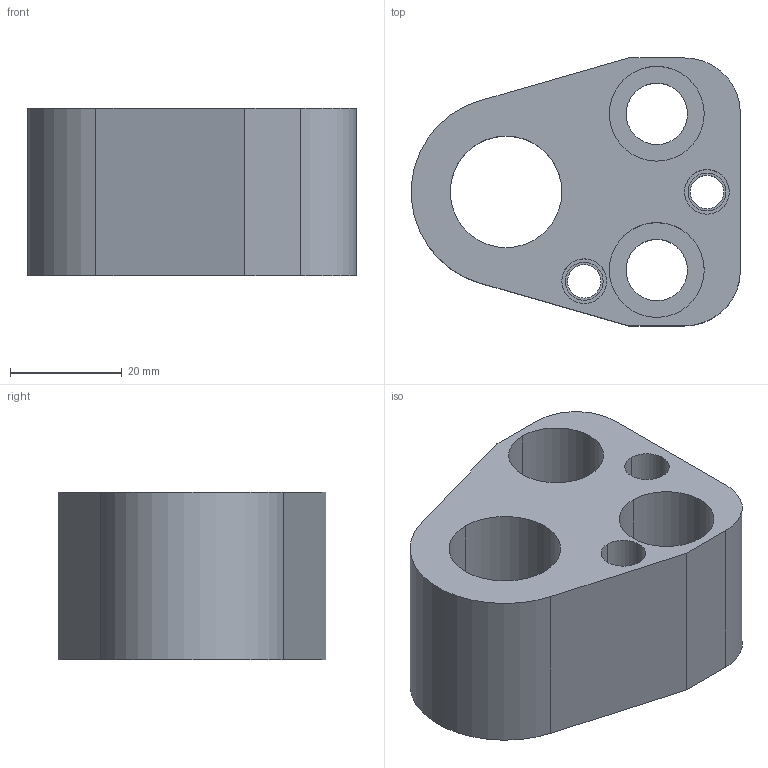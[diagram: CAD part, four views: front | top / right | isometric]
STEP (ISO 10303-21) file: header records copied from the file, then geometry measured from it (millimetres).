
FILE_DESCRIPTION(/* description */ (''),/* implementation_level */ '2;1');
FILE_NAME(/* name */ '3d_hdp-an20_04031_r00.stp',/* time_stamp */ '2011-01-10T14:14:54+09:00',/* author */ ('MISUMI'),/* organization */ (''),/* preprocessor_version */ 'ST-DEVELOPER v11',/* originating_system */ 'UGS - NX 5.0',/* authorisation */ '');
FILE_SCHEMA (('CONFIG_CONTROL_DESIGN'));
Length unit declared in the file: millimetre
Products named in the file (1): 3d_hdp-an20_04031_r00
Bounding box: 58.94 x 48 x 30 mm (x, y, z)
Volume: 47373.2 mm3; surface area: 14617 mm2
Topology: 1 solids, 1 shells, 43 faces, 100 edges, 66 vertices
Faces by surface type: cylinder 27, plane 14, cone 2
Entity records: 1360 total; most frequent: DIRECTION 244, CARTESIAN_POINT 210, ORIENTED_EDGE 200, EDGE_CURVE 100, AXIS2_PLACEMENT_3D 100, VERTEX_POINT 66, EDGE_LOOP 60, CIRCLE 56
